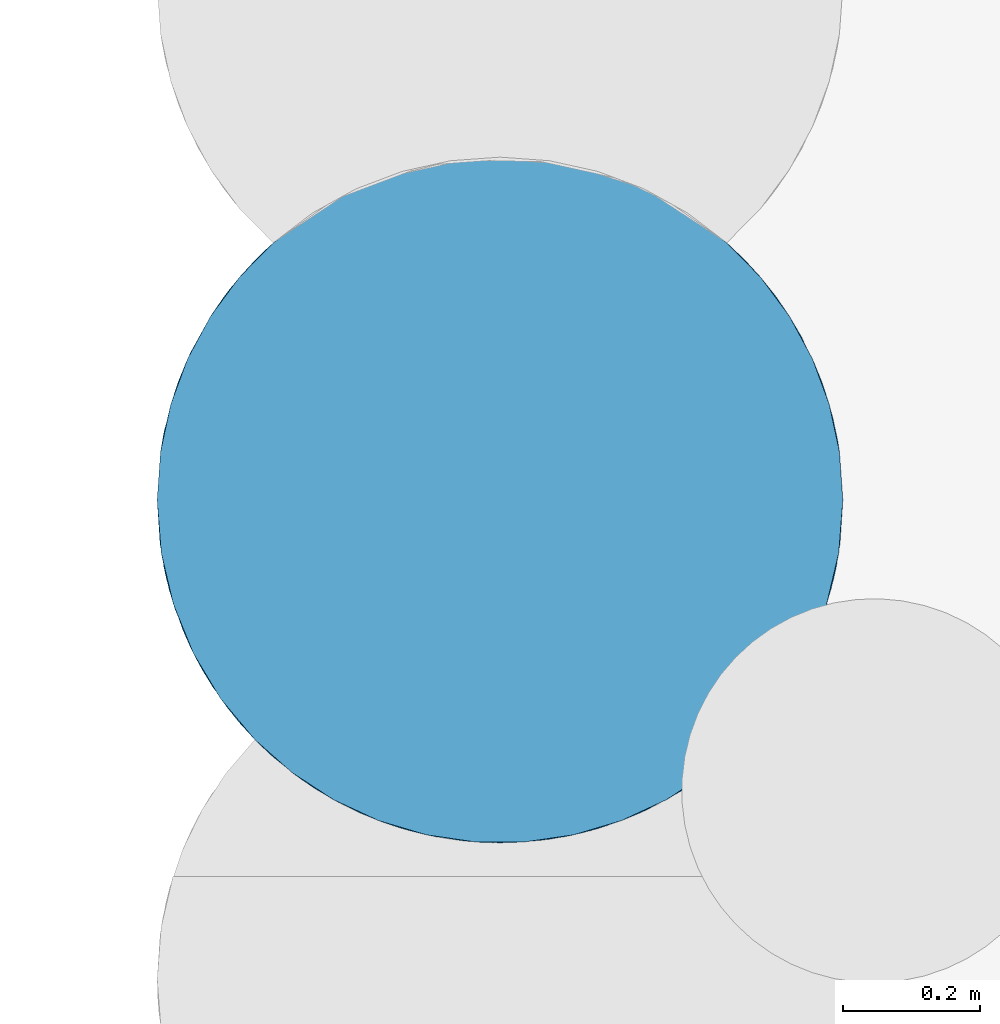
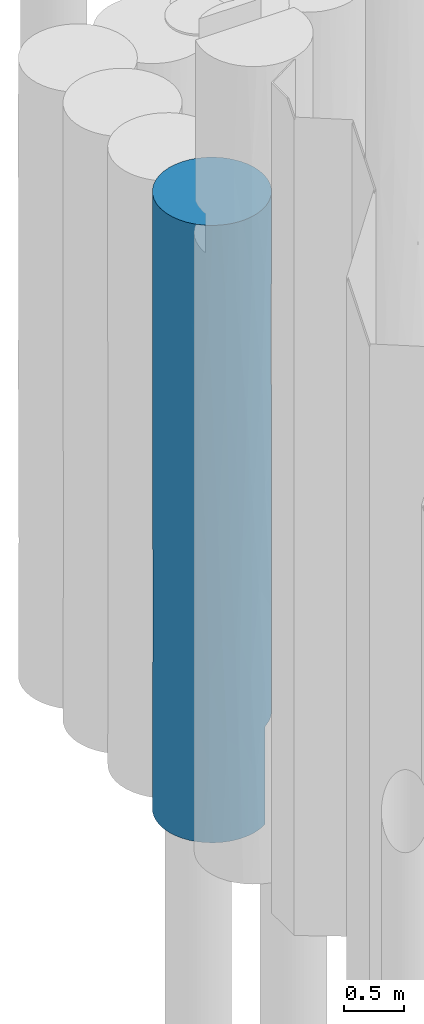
# One storey, part 76 of 104: 1 pile.
"""IFC2X3 building model written with IfcOpenShell, lengths in millimetres."""

from ifc_helpers import new_model, entity, si_unit, converted_unit, derived_unit, direction, frame, origin, place, context, subcontext, project, spatial, faceted_brep, source, transform, mapped, material, element, save


model = new_model("IFC2X3")

# Units and contexts
model_context = context("Model", 3, precision=0.01, world=origin(), true_north=direction((6.12303176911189e-17, 1.0)))
body_context = subcontext(model_context, "Body", "Model", "MODEL_VIEW")
ifc_project = project(units=[si_unit("LENGTHUNIT", "METRE", prefix="MILLI"), si_unit("AREAUNIT", "SQUARE_METRE", prefix="MILLI"), si_unit("VOLUMEUNIT", "CUBIC_METRE"), converted_unit("PLANEANGLEUNIT", "DEGREE", entity("IfcRatioMeasure", 0.0174532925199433), si_unit("PLANEANGLEUNIT", "RADIAN"), dimensions=[0, 0, 0, 0, 0, 0, 0]), si_unit("MASSUNIT", "GRAM", prefix="KILO"), derived_unit("MASSDENSITYUNIT", [(si_unit("MASSUNIT", "GRAM", prefix="KILO"), 1), (si_unit("LENGTHUNIT", "METRE"), -3)]), derived_unit("MOMENTOFINERTIAUNIT", [(si_unit("LENGTHUNIT", "METRE"), 4)]), si_unit("TIMEUNIT", "SECOND"), si_unit("FREQUENCYUNIT", "HERTZ"), si_unit("THERMODYNAMICTEMPERATUREUNIT", "DEGREE_CELSIUS"), derived_unit("THERMALTRANSMITTANCEUNIT", [(si_unit("MASSUNIT", "GRAM", prefix="KILO"), 1), (si_unit("THERMODYNAMICTEMPERATUREUNIT", "KELVIN"), -1), (si_unit("TIMEUNIT", "SECOND"), -3)]), derived_unit("VOLUMETRICFLOWRATEUNIT", [(si_unit("LENGTHUNIT", "METRE"), 3), (si_unit("TIMEUNIT", "SECOND"), -1)]), si_unit("ELECTRICCURRENTUNIT", "AMPERE"), si_unit("ELECTRICVOLTAGEUNIT", "VOLT"), si_unit("POWERUNIT", "WATT"), si_unit("FORCEUNIT", "NEWTON", prefix="KILO"), si_unit("ILLUMINANCEUNIT", "LUX"), si_unit("LUMINOUSFLUXUNIT", "LUMEN"), si_unit("LUMINOUSINTENSITYUNIT", "CANDELA"), derived_unit("USERDEFINED", [(si_unit("MASSUNIT", "GRAM", prefix="KILO"), -1), (si_unit("LENGTHUNIT", "METRE"), -2), (si_unit("TIMEUNIT", "SECOND"), 3), (si_unit("LUMINOUSFLUXUNIT", "LUMEN"), 1)]), derived_unit("LINEARVELOCITYUNIT", [(si_unit("LENGTHUNIT", "METRE"), 1), (si_unit("TIMEUNIT", "SECOND"), -1)]), si_unit("PRESSUREUNIT", "PASCAL"), derived_unit("USERDEFINED", [(si_unit("LENGTHUNIT", "METRE"), -2), (si_unit("MASSUNIT", "GRAM", prefix="KILO"), 1), (si_unit("TIMEUNIT", "SECOND"), -2)]), derived_unit("LINEARFORCEUNIT", [(si_unit("MASSUNIT", "GRAM", prefix="KILO"), 1), (si_unit("LENGTHUNIT", "METRE"), 1), (si_unit("TIMEUNIT", "SECOND"), -2), (si_unit("LENGTHUNIT", "METRE"), -1)]), derived_unit("PLANARFORCEUNIT", [(si_unit("MASSUNIT", "GRAM", prefix="KILO"), 1), (si_unit("LENGTHUNIT", "METRE"), 1), (si_unit("TIMEUNIT", "SECOND"), -2), (si_unit("LENGTHUNIT", "METRE"), -2)])], contexts=[model_context])

# Site, building, storey
site_placement = place(None, origin())
site = spatial("IfcSite", under=ifc_project, at=site_placement, Name="Theater aan de Parade", CompositionType="ELEMENT")
building_placement = place(site_placement, origin())
building = spatial("IfcBuilding", under=site, at=building_placement, Name="Theater aan de Parade", CompositionType="ELEMENT")
storey_placement = place(building_placement, frame((0.0, 0.0, -5520.0)))
storey = spatial("IfcBuildingStorey", under=building, at=storey_placement, Name="-2 kelder", CompositionType="ELEMENT", Elevation=-5520.0)

# Pile
ifc_material = material(Name="00_PBT_MAT_grout")
shared_shape = source(origin(), body_context, "Body", "Brep", [
    faceted_brep([(427.865647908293, 995.782863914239, 0.0), (499.435723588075, 1001.24413417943, 0.0), (571.051711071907, 996.401100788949, 0.0), (641.238026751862, 981.35285023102, 0.0), (708.546935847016, 956.409218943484, 0.0), (771.595272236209, 922.081306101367, 0.0), (771.595272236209, 80.4162896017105, 0.0), (704.800007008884, 44.4032706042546, 0.0), (633.323969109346, 18.9132814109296, 0.0), (558.813434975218, 4.53350530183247, 0.0), (482.984674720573, 1.5952722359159, 0.0), (407.584329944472, 10.1663783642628, 0.0), (334.34920623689, 30.0495264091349, 0.0), (264.966272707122, 60.7868623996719, 0.0), (201.033807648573, 101.670512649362, 0.0), (144.019621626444, 151.764425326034, 0.0), (102.033565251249, 200.665294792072, 0.0), (66.6893453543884, 254.557016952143, 0.0), (38.5726546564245, 312.542529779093, 0.0), (18.1470411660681, 373.664285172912, 0.0), (5.7526981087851, 436.90486509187, 0.0), (1.5952722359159, 501.24879785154, 0.0), (6.58352066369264, 571.699956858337, 0.0), (21.4458788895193, 640.735571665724, 0.0), (45.8852696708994, 706.987451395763, 0.0), (79.4126856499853, 769.132846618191, 0.0), (121.35872131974, 825.933514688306, 0.0), (170.893266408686, 876.255312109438, 0.0), (227.989151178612, 919.745739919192, 0.0), (290.729798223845, 954.609307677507, 0.0), (357.815975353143, 980.130321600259, 0.0), (970.701993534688, 674.277362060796, 1936.59710604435), (903.817458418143, 798.262792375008, 1936.59696648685), (941.648218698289, 738.637517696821, 2685.55280558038), (10.8911335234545, 597.214668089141, 1461.62906799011), (1.5952722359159, 501.24879785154, 1561.5383887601), (429.563402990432, 996.033003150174, 6320.0), (465.485042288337, 999.943144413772, 4851.31994627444), (324.804496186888, 968.950648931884, 5403.32354686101), (832.314186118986, 876.248797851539, 1000.0), (817.817253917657, 888.551855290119, 2324.26168103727), (9.58623032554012, 590.283075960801, 5332.19950044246), (1.5952722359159, 501.24879785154, 6320.0), (6.58372515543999, 571.701393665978, 6320.0), (881.911025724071, 825.840738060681, 2873.26139544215), (922.945694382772, 770.439848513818, 3543.81173077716), (743.911109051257, 938.60795830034, 5039.42840175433), (720.775073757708, 950.648636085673, 3962.51754172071), (609.170061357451, 989.539351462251, 4142.24158399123), (362.180461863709, 981.419091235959, 4400.60240254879), (259.279434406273, 938.607957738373, 4689.50091238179), (923.786739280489, 769.118850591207, 1000.0), (881.840058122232, 825.923870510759, 1000.0), (323.814341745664, 968.575172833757, 3159.60110456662), (473.831879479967, 1000.47739681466, 3425.7087464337), (606.415263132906, 990.138120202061, 1134.66342330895), (690.194650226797, 964.314964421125, 839.163570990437), (609.170061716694, 989.539351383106, 5256.43819287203), (644.151241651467, 980.495911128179, 6320.0), (711.697783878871, 954.96339382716, 6320.0), (497.367231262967, 1001.2309212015, 1167.30717586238), (857.968549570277, 851.959629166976, 4962.93441691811), (832.314186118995, 876.248797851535, 6320.0), (771.595272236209, 922.081306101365, 1000.0), (802.863033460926, 900.294830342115, 1000.0), (573.627141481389, 996.033003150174, 6320.0), (993.494242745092, 590.889206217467, 5510.8432035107), (981.745592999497, 640.732379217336, 6320.0), (996.60681931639, 571.701393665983, 6320.0), (1001.59527223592, 501.248797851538, 4123.07545194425), (986.305174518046, 623.952956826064, 4240.92356346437), (392.559574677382, 989.21520720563, 1443.73415786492), (535.330736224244, 1000.10941813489, 2114.78149993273), (970.698014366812, 674.288149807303, 5278.60587104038), (941.645123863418, 738.643254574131, 4402.09431658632), (923.003434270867, 770.349449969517, 5331.30351063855), (957.312701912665, 706.970999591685, 1000.0), (175.126697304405, 879.954844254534, 939.533715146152), (1001.59527223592, 501.248797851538, 2561.53772597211), (1001.59527223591, 501.248797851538, 1780.76886298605), (994.374576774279, 585.916129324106, 2171.15327678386), (1001.59527223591, 501.248797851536, 5539.2311370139), (32.494504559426, 674.293502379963, 1966.70816278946), (32.4945046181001, 674.293502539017, 956.549973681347), (258.733070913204, 938.304802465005, 1008.07714060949), (297.928310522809, 957.888446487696, 2005.8163048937), (957.308603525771, 706.980078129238, 6320.0), (923.785092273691, 769.12144643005, 6320.0), (750.741025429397, 934.753577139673, 3044.09575945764), (684.267370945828, 966.685049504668, 2350.7848733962), (881.843742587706, 825.919555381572, 6320.0), (774.859354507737, 919.969159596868, 6320.0), (1.5952722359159, 501.24879785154, 3123.07677752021), (10.3974125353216, 594.654700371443, 3873.88299978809), (12.1476249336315, 603.430012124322, 2732.69098828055), (198.655193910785, 899.026762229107, 1838.37949558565), (110.025363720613, 812.171628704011, 2509.93474801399), (196.713971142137, 897.540852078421, 3255.54786768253), (99.3817752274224, 798.274559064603, 1353.02956557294), (1001.59527223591, 501.248797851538, 1000.0), (996.608885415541, 571.686875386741, 1000.0), (99.372313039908, 798.261745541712, 3666.81957172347), (50.2914283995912, 716.480859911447, 3918.60935181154), (80.5154796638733, 770.862981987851, 4730.25422552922), (160.125560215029, 866.48630382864, 4083.63349079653), (817.817253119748, 888.551855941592, 3660.0), (45.8819409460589, 706.980078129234, 6320.0), (32.4925294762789, 674.28814810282, 4728.94020639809), (21.4449514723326, 640.732379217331, 6320.0), (1001.59527223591, 501.248797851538, 6320.0), (49.4106671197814, 714.624248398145, 3005.67000365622), (1.5952722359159, 501.248797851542, 2342.30758314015), (1.5952722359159, 501.24879785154, 4758.46161123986), (501.595272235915, 1001.24879785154, 6320.0), (981.749228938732, 640.719862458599, 1000.0), (291.492760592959, 954.963393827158, 6320.0), (359.039302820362, 980.495911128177, 6320.0), (244.049729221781, 929.81652094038, 5505.6519205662), (145.22199374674, 851.959627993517, 5002.1937644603), (170.876358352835, 876.248797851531, 6320.0), (79.4054521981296, 769.121446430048, 6320.0), (228.331189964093, 919.969159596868, 6320.0), (661.237391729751, 975.07829638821, 3249.53922965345), (568.862056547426, 996.703316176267, 3348.26399696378), (121.346801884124, 825.919555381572, 6320.0), (388.739842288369, 988.345966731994, 2414.79154956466), (986.968382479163, 621.302718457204, 3034.33427857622), (1.5952722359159, 501.248797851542, 3940.76919438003), (1.5952722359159, 501.24879785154, 4721.54458581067), (232.223286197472, 80.0140258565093, 780.564143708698), (895.790931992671, 193.661766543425, 2905.46665133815), (919.694834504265, 227.03582217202, 2011.6872225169), (951.492910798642, 283.092627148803, 2883.54199672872), (472.370800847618, 2.1035982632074, 947.949382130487), (989.857178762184, 393.544059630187, 2978.16233978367), (975.817118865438, 342.775960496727, 2011.69041777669), (997.439660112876, 436.918843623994, 1000.0), (985.044905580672, 373.669598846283, 1000.0), (118.073521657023, 180.451249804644, 5287.6490754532), (144.02271852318, 151.760788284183, 6320.0), (94.4200911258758, 211.062009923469, 6320.0), (122.242550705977, 175.531876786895, 1342.54647134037), (859.16782594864, 151.760788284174, 1000.0), (838.8341838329, 132.101244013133, 2317.30088324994), (370.589009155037, 18.7165615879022, 1031.42457013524), (680.038311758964, 34.1748404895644, 915.407476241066), (885.117022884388, 180.451249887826, 4942.55845809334), (964.619367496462, 312.546155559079, 4607.39061519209), (957.944692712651, 296.932360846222, 5468.21337821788), (10.9917503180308, 404.769866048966, 4393.07195319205), (19.2251732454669, 369.646793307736, 3571.55663661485), (451.258990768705, 3.78899166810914, 3940.80813708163), (501.595272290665, 1.24879785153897, 4997.50185257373), (358.746266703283, 22.0889480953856, 4701.15608792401), (227.79913548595, 82.8761463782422, 5291.67480742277), (198.236671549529, 103.7899202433, 6320.0), (714.670482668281, 48.922638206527, 2988.6504417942), (718.622191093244, 50.8053313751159, 1916.45285370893), (619.565756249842, 15.3651030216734, 4515.99354212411), (712.122093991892, 47.7309290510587, 4693.82719024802), (644.444277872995, 22.0889481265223, 5404.75344946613), (596.341899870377, 10.3077865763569, 1422.77429317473), (56.287437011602, 273.870408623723, 876.105487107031), (995.61664895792, 424.15872493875, 6320.0), (330.844038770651, 31.3083587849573, 2060.77164940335), (232.223286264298, 80.0140258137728, 1635.59104731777), (15.013571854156, 386.191208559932, 5261.57844320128), (25.3666679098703, 348.912602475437, 6320.0), (7.5738955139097, 424.158724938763, 6320.0), (50.2335010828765, 286.138241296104, 5344.19400988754), (38.5711770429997, 312.546155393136, 4400.81353669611), (261.915762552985, 62.4393487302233, 4319.95179214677), (170.260398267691, 126.792924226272, 4440.1617686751), (964.617386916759, 312.54129583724, 1000.0), (93.8564111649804, 211.854566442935, 4288.22123008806), (744.392802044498, 64.1568629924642, 6320.0), (678.747206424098, 33.6836235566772, 6320.0), (139.932072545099, 155.995658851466, 3397.6522399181), (27.3740854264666, 342.773986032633, 1455.65528320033), (28.2806716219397, 340.08649194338, 2615.41846155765), (54.5480475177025, 277.309567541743, 6320.0), (901.153530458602, 200.660710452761, 1000.0), (491.251221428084, 1.35580868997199, 2893.14182608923), (573.775410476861, 6.48620059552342, 3702.26123144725), (358.746266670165, 22.0889481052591, 5544.7841582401), (258.797742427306, 64.1568629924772, 6320.0), (324.443338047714, 33.6836235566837, 6320.0), (393.798368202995, 13.0072311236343, 6320.0), (465.41043507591, 2.55985917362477, 6320.0), (977.823876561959, 348.912602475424, 6320.0), (948.642496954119, 277.30956754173, 6320.0), (771.595272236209, 80.4162896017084, 1000.0), (83.4922499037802, 227.041097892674, 2663.11399180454), (155.017069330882, 140.855194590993, 2332.68213734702), (58.8547371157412, 268.911072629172, 3530.87713440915), (682.102770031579, 34.9687926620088, 3836.49822907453), (607.122092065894, 12.5115573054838, 2647.42456407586), (817.421438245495, 113.622904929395, 1000.0), (67.8863520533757, 252.458579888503, 1746.80548375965), (936.497803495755, 254.551030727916, 1000.0), (804.953872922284, 103.789920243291, 6320.0), (775.391409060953, 82.8761464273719, 5404.74831020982), (988.176972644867, 386.191208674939, 5352.94618709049), (992.738323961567, 407.555133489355, 4449.47494149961), (838.834183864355, 132.101244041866, 3660.0), (764.276195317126, 75.8093395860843, 3674.33659771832), (537.780109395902, 2.55985917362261, 6320.0), (609.392176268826, 13.0072311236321, 6320.0), (859.16782594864, 151.76078828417, 6320.0), (210.777089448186, 94.5243400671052, 3006.23498312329), (908.770453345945, 211.062009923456, 6320.0), (799.142489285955, 99.4209072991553, 4488.63552002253), (927.242886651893, 238.905304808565, 3850.59357602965), (976.731101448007, 345.53770704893, 3760.56059377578), (445.121661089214, 4.44830344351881, 1867.17199758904), (395.253440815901, 12.6882438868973, 3169.0006436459), (299.073759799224, 44.0999850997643, 3155.38993107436)], [[[0, 1, 2, 3, 4, 5, 6, 7, 8, 9, 10, 11, 12, 13, 14, 15, 16, 17, 18, 19, 20, 21, 22, 23, 24, 25, 26, 27, 28, 29, 30]], [[31, 32, 33]], [[34, 22, 35]], [[36, 37, 38]], [[39, 40, 32]], [[41, 42, 43]], [[44, 45, 33]], [[46, 47, 48]], [[38, 49, 50]], [[51, 52, 32]], [[53, 49, 54]], [[3, 55, 56]], [[37, 57, 48]], [[57, 58, 59]], [[60, 2, 1]], [[3, 2, 55]], [[61, 46, 62]], [[63, 5, 4]], [[64, 40, 39]], [[58, 57, 65]], [[66, 67, 68]], [[66, 69, 70]], [[71, 72, 60]], [[73, 74, 75]], [[32, 76, 51]], [[33, 32, 44]], [[77, 28, 27]], [[78, 79, 80]], [[66, 70, 73]], [[68, 81, 66]], [[82, 83, 34]], [[63, 40, 64]], [[84, 85, 71]], [[86, 73, 75]], [[75, 87, 86]], [[60, 0, 71]], [[88, 40, 89]], [[90, 61, 62]], [[91, 62, 46]], [[92, 93, 94]], [[95, 96, 97]], [[59, 91, 46]], [[77, 26, 98]], [[57, 59, 46]], [[79, 99, 100]], [[40, 63, 89]], [[86, 67, 73]], [[29, 28, 84]], [[101, 102, 103]], [[104, 50, 97]], [[28, 77, 84]], [[71, 0, 30]], [[55, 72, 89]], [[46, 48, 57]], [[55, 60, 72]], [[77, 95, 84]], [[105, 46, 61]], [[35, 22, 21]], [[45, 61, 74]], [[75, 90, 87]], [[106, 107, 108]], [[25, 98, 26]], [[68, 109, 81]], [[82, 110, 96]], [[83, 24, 23]], [[32, 31, 76]], [[83, 25, 24]], [[94, 34, 111]], [[41, 93, 112]], [[57, 37, 113]], [[65, 57, 113]], [[31, 114, 76]], [[93, 41, 107]], [[113, 37, 36]], [[38, 115, 116]], [[97, 50, 53]], [[73, 70, 74]], [[115, 38, 117]], [[100, 114, 80]], [[98, 25, 83]], [[117, 118, 119]], [[82, 94, 110]], [[103, 106, 120]], [[119, 121, 117]], [[120, 118, 103]], [[30, 29, 84]], [[50, 117, 38]], [[41, 108, 107]], [[122, 123, 48]], [[118, 120, 124]], [[118, 124, 119]], [[71, 85, 125]], [[56, 89, 63]], [[4, 56, 63]], [[98, 82, 96]], [[85, 84, 95]], [[30, 84, 71]], [[83, 23, 22]], [[98, 83, 82]], [[39, 32, 52]], [[44, 32, 40]], [[126, 31, 33]], [[80, 114, 31]], [[36, 38, 116]], [[49, 38, 37]], [[126, 33, 45]], [[69, 78, 126]], [[72, 54, 123]], [[122, 47, 88]], [[54, 49, 37]], [[53, 50, 49]], [[48, 54, 37]], [[72, 71, 125]], [[69, 126, 70]], [[45, 70, 126]], [[97, 85, 95]], [[125, 85, 53]], [[40, 105, 44]], [[105, 61, 45]], [[105, 45, 44]], [[45, 74, 70]], [[74, 61, 75]], [[90, 75, 61]], [[53, 54, 125]], [[72, 125, 54]], [[26, 77, 27]], [[98, 95, 77]], [[22, 34, 83]], [[34, 94, 82]], [[111, 92, 94]], [[34, 35, 111]], [[102, 93, 107]], [[93, 92, 127, 128, 112]], [[110, 102, 101]], [[93, 110, 94]], [[110, 101, 96]], [[97, 96, 101]], [[95, 98, 96]], [[97, 101, 104]], [[97, 53, 85]], [[2, 60, 55]], [[0, 60, 1]], [[118, 117, 50]], [[115, 117, 121]], [[93, 102, 110]], [[103, 102, 107]], [[103, 107, 106]], [[103, 118, 104]], [[66, 81, 69]], [[67, 66, 73]], [[42, 41, 112]], [[108, 41, 43]], [[46, 105, 47]], [[88, 47, 105]], [[40, 88, 105]], [[122, 88, 89]], [[123, 89, 72]], [[48, 47, 122]], [[123, 122, 89]], [[54, 48, 123]], [[3, 56, 4]], [[89, 56, 55]], [[80, 126, 78]], [[100, 80, 79]], [[126, 80, 31]], [[103, 104, 101]], [[50, 104, 118]], [[14, 129, 15]], [[130, 131, 132]], [[133, 11, 10]], [[134, 135, 78]], [[136, 135, 137]], [[138, 139, 140]], [[129, 141, 15]], [[142, 131, 143]], [[11, 144, 12]], [[145, 8, 7]], [[146, 147, 148]], [[133, 144, 11]], [[12, 144, 129]], [[149, 92, 150]], [[151, 152, 153]], [[139, 154, 155]], [[14, 13, 129]], [[143, 156, 157]], [[158, 159, 160]], [[8, 161, 9]], [[141, 162, 16]], [[81, 109, 163]], [[19, 18, 162]], [[144, 164, 165]], [[166, 167, 168]], [[169, 166, 170]], [[171, 154, 172]], [[135, 173, 137]], [[138, 174, 172]], [[175, 176, 160]], [[166, 169, 167]], [[138, 172, 154]], [[177, 172, 174]], [[178, 179, 35]], [[169, 180, 167]], [[138, 154, 139]], [[142, 181, 131]], [[151, 182, 183]], [[154, 184, 185]], [[133, 9, 161]], [[186, 184, 187]], [[178, 35, 20]], [[184, 152, 188]], [[148, 189, 190]], [[191, 145, 7]], [[192, 193, 177]], [[192, 194, 179]], [[6, 191, 7]], [[195, 196, 156]], [[178, 20, 19]], [[143, 197, 142]], [[141, 198, 162]], [[185, 155, 154]], [[141, 193, 198]], [[131, 173, 135]], [[131, 130, 143]], [[20, 35, 21]], [[166, 42, 112, 128]], [[153, 154, 171]], [[181, 199, 131]], [[200, 175, 201]], [[136, 78, 135]], [[131, 199, 173]], [[202, 163, 189]], [[162, 18, 17]], [[203, 81, 202]], [[188, 187, 184]], [[204, 205, 143]], [[152, 160, 206]], [[131, 135, 132]], [[159, 201, 160]], [[160, 176, 207]], [[183, 152, 151]], [[177, 194, 192]], [[191, 197, 143]], [[136, 99, 79, 78]], [[160, 201, 175]], [[208, 200, 201]], [[141, 16, 15]], [[193, 209, 177]], [[210, 208, 146]], [[132, 135, 134]], [[210, 146, 148]], [[146, 201, 211]], [[130, 132, 212]], [[159, 158, 195]], [[202, 148, 147]], [[152, 206, 188]], [[213, 134, 203]], [[214, 144, 133]], [[212, 204, 130]], [[159, 205, 211]], [[154, 153, 184]], [[169, 140, 180]], [[138, 169, 174]], [[164, 144, 214]], [[144, 165, 129]], [[42, 166, 168]], [[170, 149, 150]], [[206, 160, 207]], [[158, 152, 183]], [[211, 201, 159]], [[208, 201, 146]], [[203, 202, 147]], [[81, 163, 202]], [[184, 186, 185]], [[152, 184, 153]], [[129, 13, 12]], [[141, 129, 165]], [[196, 183, 182]], [[161, 145, 157]], [[78, 69, 134]], [[134, 69, 203]], [[215, 214, 182]], [[209, 164, 216]], [[159, 195, 205]], [[146, 211, 204]], [[194, 174, 170]], [[174, 194, 177]], [[198, 193, 192]], [[209, 171, 172]], [[141, 165, 193]], [[165, 164, 209]], [[209, 172, 177]], [[216, 153, 171]], [[152, 158, 160]], [[183, 196, 195]], [[183, 195, 158]], [[195, 156, 205]], [[143, 205, 156]], [[211, 205, 204]], [[132, 213, 212]], [[204, 143, 130]], [[147, 146, 212]], [[204, 212, 146]], [[179, 194, 150]], [[179, 178, 198]], [[150, 194, 170]], [[179, 92, 111, 35]], [[170, 166, 149]], [[92, 179, 150]], [[203, 147, 213]], [[81, 203, 69]], [[212, 213, 147]], [[132, 134, 213]], [[166, 128, 149]], [[149, 128, 127, 92]], [[174, 169, 170]], [[140, 169, 138]], [[9, 133, 10]], [[161, 214, 133]], [[165, 209, 193]], [[171, 209, 216]], [[216, 215, 153]], [[214, 215, 164]], [[215, 182, 151]], [[196, 214, 161]], [[214, 196, 182]], [[157, 196, 161]], [[189, 148, 202]], [[148, 190, 210]], [[153, 215, 151]], [[164, 215, 216]], [[179, 198, 192]], [[162, 198, 178]], [[162, 178, 19]], [[162, 17, 16]], [[157, 145, 191]], [[8, 145, 161]], [[143, 157, 191]], [[157, 156, 196]], [[59, 58, 65, 113, 36, 116, 115, 121, 119, 124, 120, 106, 108, 43, 42, 168, 167, 180, 140, 139, 155, 185, 186, 187, 188, 206, 207, 176, 175, 200, 208, 210, 190, 189, 163, 109, 68, 67, 86, 87, 90, 62, 91]], [[39, 52, 51, 76, 114, 100, 99, 136, 137, 173, 199, 181, 142, 197, 191, 63, 64]], [[63, 191, 6, 5]]]),
])
pile_placement = place(storey_placement, frame((73298.4047277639, 17902.727221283, -3840.0)))
element("IfcPile", 1, at=pile_placement, inside=storey, material=ifc_material, Name="17_PBT_SFO_grondkering_rond:Ø1000 (grondkering)", ObjectType="17_PBT_SFO_grondkering_rond:Ø1000 (grondkering)", PredefinedType="NOTDEFINED", context=body_context, shape_type="MappedRepresentation", body=[
    mapped(shared_shape, transform((0.0, 0.0, 0.0), scale=1.0)),
])

save(model, "model.ifc")
